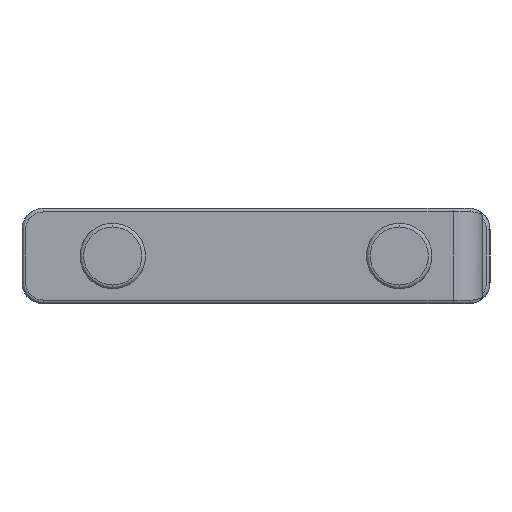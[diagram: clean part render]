
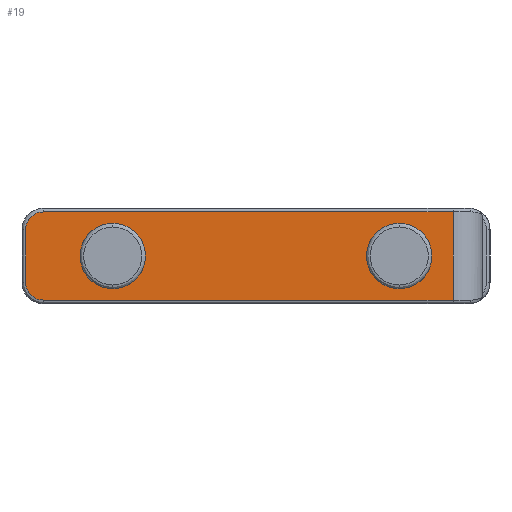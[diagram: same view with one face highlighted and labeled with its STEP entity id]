
A CAD part, left-side view. The second image highlights one B-rep face of the part: STEP entity #19.
In plain terms, the highlighted planar face has unit normal (-1, 0, 0).
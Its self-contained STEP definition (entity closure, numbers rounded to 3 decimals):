
#1 = EDGE_CURVE ( 'NONE', #6, #12, #682, .T. ) ;
#2 = EDGE_CURVE ( 'NONE', #9, #6, #1310, .T. ) ;
#3 = EDGE_CURVE ( 'NONE', #3202, #9, #1306, .T. ) ;
#5 = ORIENTED_EDGE ( 'NONE', *, *, #1, .T. ) ;
#6 = VERTEX_POINT ( 'NONE', #1300 ) ;
#7 = EDGE_CURVE ( 'NONE', #10, #3204, #1299, .T. ) ;
#8 = ORIENTED_EDGE ( 'NONE', *, *, #2, .T. ) ;
#9 = VERTEX_POINT ( 'NONE', #1295 ) ;
#10 = VERTEX_POINT ( 'NONE', #1294 ) ;
#12 = VERTEX_POINT ( 'NONE', #1293 ) ;
#19 = ADVANCED_FACE ( 'NONE', ( #1282, #1281, #1280 ), #1279, .F. ) ;
#21 = ORIENTED_EDGE ( 'NONE', *, *, #892, .F. ) ;
#22 = EDGE_LOOP ( 'NONE', ( #21, #32 ) ) ;
#30 = EDGE_LOOP ( 'NONE', ( #33, #3203, #3206, #8, #5, #593 ) ) ;
#32 = ORIENTED_EDGE ( 'NONE', *, *, #1166, .F. ) ;
#33 = ORIENTED_EDGE ( 'NONE', *, *, #7, .F. ) ;
#98 = VERTEX_POINT ( 'NONE', #1425 ) ;
#99 = EDGE_CURVE ( 'NONE', #98, #106, #1423, .T. ) ;
#106 = VERTEX_POINT ( 'NONE', #1404 ) ;
#568 = ORIENTED_EDGE ( 'NONE', *, *, #983, .F. ) ;
#593 = ORIENTED_EDGE ( 'NONE', *, *, #961, .T. ) ;
#675 = DIRECTION ( 'NONE',  ( 0., 0., -1. ) ) ;
#678 = DIRECTION ( 'NONE',  ( -1., 0., 0. ) ) ;
#679 = CARTESIAN_POINT ( 'NONE',  ( -383.2, 28.95, -3.6 ) ) ;
#681 = AXIS2_PLACEMENT_3D ( 'NONE', #679, #678, #675 ) ;
#682 = CIRCLE ( 'NONE', #681, 2.4 ) ;
#892 = EDGE_CURVE ( 'NONE', #1167, #1165, #2276, .T. ) ;
#961 = EDGE_CURVE ( 'NONE', #12, #3204, #2391, .T. ) ;
#962 = EDGE_LOOP ( 'NONE', ( #568, #982 ) ) ;
#982 = ORIENTED_EDGE ( 'NONE', *, *, #99, .F. ) ;
#983 = EDGE_CURVE ( 'NONE', #106, #98, #2471, .T. ) ;
#1165 = VERTEX_POINT ( 'NONE', #2802 ) ;
#1166 = EDGE_CURVE ( 'NONE', #1165, #1167, #2801, .T. ) ;
#1167 = VERTEX_POINT ( 'NONE', #2796 ) ;
#1279 = PLANE ( 'NONE',  #1339 ) ;
#1280 = FACE_BOUND ( 'NONE', #962, .T. ) ;
#1281 = FACE_OUTER_BOUND ( 'NONE', #30, .T. ) ;
#1282 = FACE_BOUND ( 'NONE', #22, .T. ) ;
#1293 = CARTESIAN_POINT ( 'NONE',  ( -383.2, 28.95, -6. ) ) ;
#1294 = CARTESIAN_POINT ( 'NONE',  ( -383.2, -26.82, 6. ) ) ;
#1295 = CARTESIAN_POINT ( 'NONE',  ( -383.2, 31.35, 3.6 ) ) ;
#1296 = DIRECTION ( 'NONE',  ( 0., 0., -1. ) ) ;
#1297 = VECTOR ( 'NONE', #1296, 1000. ) ;
#1298 = CARTESIAN_POINT ( 'NONE',  ( -383.2, -26.82, -7.5 ) ) ;
#1299 = LINE ( 'NONE', #1298, #1297 ) ;
#1300 = CARTESIAN_POINT ( 'NONE',  ( -383.2, 31.35, -3.6 ) ) ;
#1302 = DIRECTION ( 'NONE',  ( 0., 0., -1. ) ) ;
#1303 = DIRECTION ( 'NONE',  ( -1., 0., 0. ) ) ;
#1304 = CARTESIAN_POINT ( 'NONE',  ( -383.2, 28.95, 3.6 ) ) ;
#1305 = AXIS2_PLACEMENT_3D ( 'NONE', #1304, #1303, #1302 ) ;
#1306 = CIRCLE ( 'NONE', #1305, 2.4 ) ;
#1307 = DIRECTION ( 'NONE',  ( 0., 0., -1. ) ) ;
#1308 = VECTOR ( 'NONE', #1307, 1000. ) ;
#1309 = CARTESIAN_POINT ( 'NONE',  ( -383.2, 31.35, -3.6 ) ) ;
#1310 = LINE ( 'NONE', #1309, #1308 ) ;
#1336 = DIRECTION ( 'NONE',  ( 0., 0., -1. ) ) ;
#1337 = DIRECTION ( 'NONE',  ( 1., 0., 0. ) ) ;
#1338 = CARTESIAN_POINT ( 'NONE',  ( -383.2, -27.9, -2.9 ) ) ;
#1339 = AXIS2_PLACEMENT_3D ( 'NONE', #1338, #1337, #1336 ) ;
#1404 = CARTESIAN_POINT ( 'NONE',  ( -383.2, -19.5, -4.45 ) ) ;
#1419 = DIRECTION ( 'NONE',  ( 0., 0., -1. ) ) ;
#1420 = DIRECTION ( 'NONE',  ( -1., 0., 0. ) ) ;
#1421 = CARTESIAN_POINT ( 'NONE',  ( -383.2, -19.5, 0. ) ) ;
#1422 = AXIS2_PLACEMENT_3D ( 'NONE', #1421, #1420, #1419 ) ;
#1423 = CIRCLE ( 'NONE', #1422, 4.45 ) ;
#1425 = CARTESIAN_POINT ( 'NONE',  ( -383.2, -19.5, 4.45 ) ) ;
#2272 = DIRECTION ( 'NONE',  ( 0., 0., -1. ) ) ;
#2273 = DIRECTION ( 'NONE',  ( -1., 0., 0. ) ) ;
#2274 = CARTESIAN_POINT ( 'NONE',  ( -383.2, 19.5, 0. ) ) ;
#2275 = AXIS2_PLACEMENT_3D ( 'NONE', #2274, #2273, #2272 ) ;
#2276 = CIRCLE ( 'NONE', #2275, 4.45 ) ;
#2388 = DIRECTION ( 'NONE',  ( 0., -1., 0. ) ) ;
#2389 = VECTOR ( 'NONE', #2388, 1000. ) ;
#2390 = CARTESIAN_POINT ( 'NONE',  ( -383.2, -26.82, -6. ) ) ;
#2391 = LINE ( 'NONE', #2390, #2389 ) ;
#2467 = DIRECTION ( 'NONE',  ( 0., 0., -1. ) ) ;
#2468 = DIRECTION ( 'NONE',  ( -1., 0., 0. ) ) ;
#2469 = CARTESIAN_POINT ( 'NONE',  ( -383.2, -19.5, 0. ) ) ;
#2470 = AXIS2_PLACEMENT_3D ( 'NONE', #2469, #2468, #2467 ) ;
#2471 = CIRCLE ( 'NONE', #2470, 4.45 ) ;
#2796 = CARTESIAN_POINT ( 'NONE',  ( -383.2, 19.5, -4.45 ) ) ;
#2797 = DIRECTION ( 'NONE',  ( 0., 0., -1. ) ) ;
#2798 = DIRECTION ( 'NONE',  ( -1., 0., 0. ) ) ;
#2799 = CARTESIAN_POINT ( 'NONE',  ( -383.2, 19.5, 0. ) ) ;
#2800 = AXIS2_PLACEMENT_3D ( 'NONE', #2799, #2798, #2797 ) ;
#2801 = CIRCLE ( 'NONE', #2800, 4.45 ) ;
#2802 = CARTESIAN_POINT ( 'NONE',  ( -383.2, 19.5, 4.45 ) ) ;
#3128 = DIRECTION ( 'NONE',  ( 0., 1., 0. ) ) ;
#3129 = VECTOR ( 'NONE', #3128, 1000. ) ;
#3130 = CARTESIAN_POINT ( 'NONE',  ( -383.2, 28.95, 6. ) ) ;
#3131 = LINE ( 'NONE', #3130, #3129 ) ;
#3132 = CARTESIAN_POINT ( 'NONE',  ( -383.2, -26.82, -6. ) ) ;
#3133 = CARTESIAN_POINT ( 'NONE',  ( -383.2, 28.95, 6. ) ) ;
#3202 = VERTEX_POINT ( 'NONE', #3133 ) ;
#3203 = ORIENTED_EDGE ( 'NONE', *, *, #3205, .T. ) ;
#3204 = VERTEX_POINT ( 'NONE', #3132 ) ;
#3205 = EDGE_CURVE ( 'NONE', #10, #3202, #3131, .T. ) ;
#3206 = ORIENTED_EDGE ( 'NONE', *, *, #3, .T. ) ;
